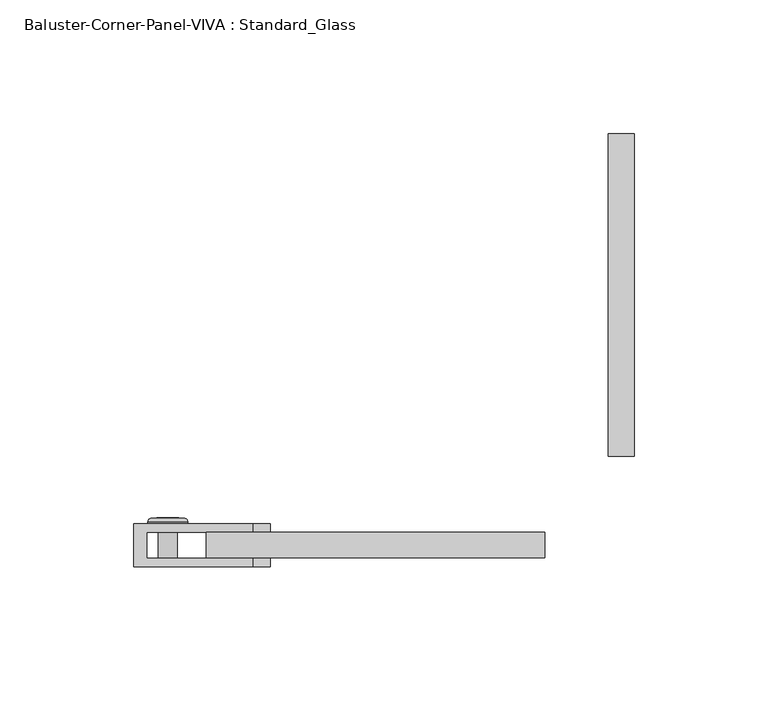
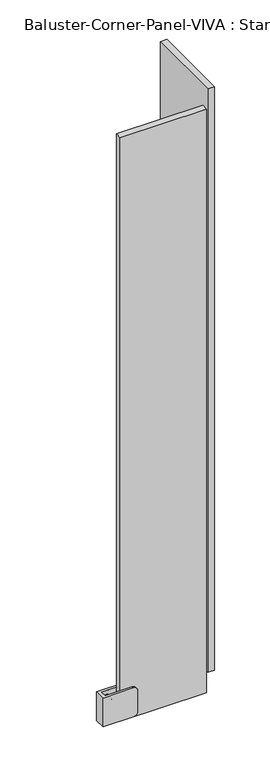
"""IFC4 building model written with IfcOpenShell, lengths in millimetres: railing geometry, Baluster-Corner-Panel-VIVA : Standard_Glass."""

from ifc_helpers import new_model, si_unit, point, frame, origin, place, context, project, spatial, polyline, circle_curve, ellipse_curve, trimmed, outline, extrude, source, transform, mapped, element, save
from ifc_brep_helpers import plane_surface, cylinder_surface, revolved_surface, advanced_brep


def baluster_corner_panel_viva_standard_glass_7a828251(model_context):
    return source(origin(), model_context, "Body", "SolidModel", [
        advanced_brep(
        [(-140.742391, -36.7665, 138.7358896), (-140.742391, -24.0665, 138.7358896), (-133.6514991, -24.0665, 138.7358896), (-133.6514991, -36.7665, 138.7358896), (-144.6047341, -24.0665, 138.7358896), (-129.789156, -24.0665, 138.7358896), (-138.8530204, -23.199388, 138.7358896), (-138.8530204, -36.7665, 138.7358896), (-135.5408697, -36.7665, 138.7358896), (-135.5408697, -23.199388, 138.7358896), (-144.6047341, -23.2316551, 138.7358896), (-143.3234621, -21.9503831, 138.7358896), (-131.070428, -21.9503831, 138.7358896), (-129.789156, -23.2316551, 138.7358896), (-141.4955406, -21.9503831, 138.7358896), (-132.8983495, -21.9503831, 138.7358896), (-141.4955406, -23.199388, 138.7358896), (-132.8983495, -23.199388, 138.7358896)],
        [
            (0, 1),
            (1, 2, circle_curve(frame((-137.1969451, -24.0665, 138.7358896), z_axis=(0.0, -1.0, 0.0), x_axis=(1.0, 0.0, 0.0)), 3.5454459)),
            (2, 3),
            (3, 0, circle_curve(frame((-137.1969451, -36.7665, 138.7358896), z_axis=(0.0, 1.0, 0.0), x_axis=(1.0, 0.0, 0.0)), 3.5454459)),
            (2, 1, circle_curve(frame((-137.1969451, -24.0665, 138.7358896), z_axis=(0.0, -1.0, 0.0), x_axis=(1.0, 0.0, 0.0)), 3.5454459)),
            (0, 3, circle_curve(frame((-137.1969451, -36.7665, 138.7358896), z_axis=(0.0, 1.0, 0.0), x_axis=(1.0, 0.0, 0.0)), 3.5454459)),
            (1, 4),
            (4, 5, circle_curve(frame((-137.1969451, -24.0665, 138.7358896), z_axis=(0.0, -1.0, 0.0), x_axis=(1.0, 0.0, 0.0)), 7.4077891)),
            (5, 2),
            (5, 4, circle_curve(frame((-137.1969451, -24.0665, 138.7358896), z_axis=(0.0, -1.0, 0.0), x_axis=(1.0, 0.0, 0.0)), 7.4077891)),
            (6, 7),
            (7, 8, circle_curve(frame((-137.1969451, -36.7665, 138.7358896), z_axis=(0.0, -1.0, 0.0), x_axis=(1.0, 0.0, 0.0)), 1.6560754)),
            (8, 9),
            (9, 6, circle_curve(frame((-137.1969451, -23.199388, 138.7358896), z_axis=(0.0, 1.0, 0.0), x_axis=(1.0, 0.0, 0.0)), 1.6560754)),
            (8, 7, circle_curve(frame((-137.1969451, -36.7665, 138.7358896), z_axis=(0.0, -1.0, 0.0), x_axis=(1.0, 0.0, 0.0)), 1.6560754)),
            (6, 9, circle_curve(frame((-137.1969451, -23.199388, 138.7358896), z_axis=(0.0, 1.0, 0.0), x_axis=(1.0, 0.0, 0.0)), 1.6560754)),
            (10, 11, circle_curve(frame((-143.3234621, -23.2316551, 138.7358896), z_axis=(0.0, 0.0, -1.0), x_axis=(-1.0, 0.0, 0.0)), 1.281272)),
            (11, 12, circle_curve(frame((-137.1969451, -21.9503831, 138.7358896), z_axis=(0.0, -1.0, 0.0), x_axis=(1.0, 0.0, 0.0)), 6.1265171)),
            (12, 13, circle_curve(frame((-131.070428, -23.2316551, 138.7358896), z_axis=(0.0, 0.0, -1.0), x_axis=(1.0, 0.0, 0.0)), 1.281272)),
            (13, 10, circle_curve(frame((-137.1969451, -23.2316551, 138.7358896), z_axis=(0.0, 1.0, 0.0), x_axis=(1.0, 0.0, 0.0)), 7.4077891)),
            (12, 11, circle_curve(frame((-137.1969451, -21.9503831, 138.7358896), z_axis=(0.0, -1.0, 0.0), x_axis=(1.0, 0.0, 0.0)), 6.1265171)),
            (10, 13, circle_curve(frame((-137.1969451, -23.2316551, 138.7358896), z_axis=(0.0, 1.0, 0.0), x_axis=(1.0, 0.0, 0.0)), 7.4077891)),
            (11, 14),
            (14, 15, circle_curve(frame((-137.1969451, -21.9503831, 138.7358896), z_axis=(0.0, -1.0, 0.0), x_axis=(1.0, 0.0, 0.0)), 4.2985955)),
            (15, 12),
            (15, 14, circle_curve(frame((-137.1969451, -21.9503831, 138.7358896), z_axis=(0.0, -1.0, 0.0), x_axis=(1.0, 0.0, 0.0)), 4.2985955)),
            (4, 10),
            (13, 5),
            (7, 0),
            (3, 8),
            (14, 16),
            (16, 17, circle_curve(frame((-137.1969451, -23.199388, 138.7358896), z_axis=(0.0, -1.0, 0.0), x_axis=(1.0, 0.0, 0.0)), 4.2985955)),
            (17, 15),
            (17, 16, circle_curve(frame((-137.1969451, -23.199388, 138.7358896), z_axis=(0.0, -1.0, 0.0), x_axis=(1.0, 0.0, 0.0)), 4.2985955)),
            (16, 6),
            (9, 17),
        ],
        [
            cylinder_surface(frame((-137.1969451, -27.5632331, 138.7358896), z_axis=(0.0, -1.0, 0.0), x_axis=(1.0, 0.0, 0.0)), 3.5454459),
            plane_surface(frame((-137.1969451, -24.0665, 138.7358896), z_axis=(0.0, -1.0, 0.0), x_axis=(1.0, 0.0, 0.0))),
            revolved_surface(polyline([(-135.5408697, -36.7665, 138.7358896), (-135.5408697, -23.199388, 138.7358896)]), (-137.1969451, -27.5632331, 138.7358896), (0.0, -1.0, 0.0)),
            revolved_surface(trimmed(ellipse_curve(frame((-131.070428, -23.2316551, 138.7358896), z_axis=(0.0, 0.0, -1.0), x_axis=(1.0, 0.0, 0.0)), 1.281272, 1.281272), [point((-131.070428, -21.9503831, 138.7358896))], [point((-129.789156, -23.2316551, 138.7358896))], True, "CARTESIAN"), (-137.1969451, -27.5632331, 138.7358896), (0.0, -1.0, 0.0)),
            plane_surface(frame((-137.1969451, -21.9503831, 138.7358896), z_axis=(0.0, 1.0, 0.0), x_axis=(1.0, 0.0, 0.0))),
            cylinder_surface(frame((-137.1969451, -27.5632331, 138.7358896), z_axis=(0.0, -1.0, 0.0), x_axis=(1.0, 0.0, 0.0)), 7.4077891),
            plane_surface(frame((-137.1969451, -36.7665, 138.7358896), z_axis=(0.0, -1.0, 0.0), x_axis=(1.0, 0.0, 0.0))),
            revolved_surface(polyline([(-132.8983496, -23.199388, 138.7358896), (-132.8983496, -21.9503831, 138.7358896)]), (-137.1969451, -27.5632331, 138.7358896), (0.0, -1.0, 0.0)),
            plane_surface(frame((-137.1969451, -23.199388, 138.7358896), z_axis=(0.0, 1.0, 0.0), x_axis=(1.0, 0.0, 0.0))),
        ],
        [
            (0, [[1, 2, 3, 4]]),
            (0, [[-3, 5, -1, 6]]),
            (1, [[7, 8, 9, -2]]),
            (1, [[-9, 10, -7, -5]]),
            (2, [[11, 12, 13, 14]]),
            (2, [[-13, 15, -11, 16]]),
            (3, [[17, 18, 19, 20]]),
            (3, [[-19, 21, -17, 22]]),
            (4, [[23, 24, 25, -18]]),
            (4, [[-25, 26, -23, -21]]),
            (5, [[27, -20, 28, -8]]),
            (5, [[-28, -22, -27, -10]]),
            (6, [[29, -4, 30, -12]]),
            (6, [[-30, -6, -29, -15]]),
            (7, [[31, 32, 33, -24]]),
            (7, [[-33, 34, -31, -26]]),
            (8, [[35, -14, 36, -32]]),
            (8, [[-36, -16, -35, -34]]),
        ],
    ),
        advanced_brep(
        [(-140.742391, -36.7665, 114.1296396), (-140.742391, -24.0665, 114.1296396), (-133.6514991, -24.0665, 114.1296396), (-133.6514991, -36.7665, 114.1296396), (-144.6047341, -24.0665, 114.1296396), (-129.789156, -24.0665, 114.1296396), (-138.8530204, -23.199388, 114.1296396), (-138.8530204, -36.7665, 114.1296396), (-135.5408697, -36.7665, 114.1296396), (-135.5408697, -23.199388, 114.1296396), (-144.6047341, -23.2316551, 114.1296396), (-143.3234621, -21.9503831, 114.1296396), (-131.070428, -21.9503831, 114.1296396), (-129.789156, -23.2316551, 114.1296396), (-141.4955406, -21.9503831, 114.1296396), (-132.8983495, -21.9503831, 114.1296396), (-141.4955406, -23.199388, 114.1296396), (-132.8983495, -23.199388, 114.1296396)],
        [
            (0, 1),
            (1, 2, circle_curve(frame((-137.1969451, -24.0665, 114.1296396), z_axis=(0.0, -1.0, 0.0), x_axis=(1.0, 0.0, 0.0)), 3.5454459)),
            (2, 3),
            (3, 0, circle_curve(frame((-137.1969451, -36.7665, 114.1296396), z_axis=(0.0, 1.0, 0.0), x_axis=(1.0, 0.0, 0.0)), 3.5454459)),
            (2, 1, circle_curve(frame((-137.1969451, -24.0665, 114.1296396), z_axis=(0.0, -1.0, 0.0), x_axis=(1.0, 0.0, 0.0)), 3.5454459)),
            (0, 3, circle_curve(frame((-137.1969451, -36.7665, 114.1296396), z_axis=(0.0, 1.0, 0.0), x_axis=(1.0, 0.0, 0.0)), 3.5454459)),
            (1, 4),
            (4, 5, circle_curve(frame((-137.1969451, -24.0665, 114.1296396), z_axis=(0.0, -1.0, 0.0), x_axis=(1.0, 0.0, 0.0)), 7.4077891)),
            (5, 2),
            (5, 4, circle_curve(frame((-137.1969451, -24.0665, 114.1296396), z_axis=(0.0, -1.0, 0.0), x_axis=(1.0, 0.0, 0.0)), 7.4077891)),
            (6, 7),
            (7, 8, circle_curve(frame((-137.1969451, -36.7665, 114.1296396), z_axis=(0.0, -1.0, 0.0), x_axis=(1.0, 0.0, 0.0)), 1.6560754)),
            (8, 9),
            (9, 6, circle_curve(frame((-137.1969451, -23.199388, 114.1296396), z_axis=(0.0, 1.0, 0.0), x_axis=(1.0, 0.0, 0.0)), 1.6560754)),
            (8, 7, circle_curve(frame((-137.1969451, -36.7665, 114.1296396), z_axis=(0.0, -1.0, 0.0), x_axis=(1.0, 0.0, 0.0)), 1.6560754)),
            (6, 9, circle_curve(frame((-137.1969451, -23.199388, 114.1296396), z_axis=(0.0, 1.0, 0.0), x_axis=(1.0, 0.0, 0.0)), 1.6560754)),
            (10, 11, circle_curve(frame((-143.3234621, -23.2316551, 114.1296396), z_axis=(0.0, 0.0, -1.0), x_axis=(-1.0, 0.0, 0.0)), 1.281272)),
            (11, 12, circle_curve(frame((-137.1969451, -21.9503831, 114.1296396), z_axis=(0.0, -1.0, 0.0), x_axis=(1.0, 0.0, 0.0)), 6.1265171)),
            (12, 13, circle_curve(frame((-131.070428, -23.2316551, 114.1296396), z_axis=(0.0, 0.0, -1.0), x_axis=(1.0, 0.0, 0.0)), 1.281272)),
            (13, 10, circle_curve(frame((-137.1969451, -23.2316551, 114.1296396), z_axis=(0.0, 1.0, 0.0), x_axis=(1.0, 0.0, 0.0)), 7.4077891)),
            (12, 11, circle_curve(frame((-137.1969451, -21.9503831, 114.1296396), z_axis=(0.0, -1.0, 0.0), x_axis=(1.0, 0.0, 0.0)), 6.1265171)),
            (10, 13, circle_curve(frame((-137.1969451, -23.2316551, 114.1296396), z_axis=(0.0, 1.0, 0.0), x_axis=(1.0, 0.0, 0.0)), 7.4077891)),
            (11, 14),
            (14, 15, circle_curve(frame((-137.1969451, -21.9503831, 114.1296396), z_axis=(0.0, -1.0, 0.0), x_axis=(1.0, 0.0, 0.0)), 4.2985955)),
            (15, 12),
            (15, 14, circle_curve(frame((-137.1969451, -21.9503831, 114.1296396), z_axis=(0.0, -1.0, 0.0), x_axis=(1.0, 0.0, 0.0)), 4.2985955)),
            (7, 0),
            (3, 8),
            (4, 10),
            (13, 5),
            (14, 16),
            (16, 17, circle_curve(frame((-137.1969451, -23.199388, 114.1296396), z_axis=(0.0, -1.0, 0.0), x_axis=(1.0, 0.0, 0.0)), 4.2985955)),
            (17, 15),
            (17, 16, circle_curve(frame((-137.1969451, -23.199388, 114.1296396), z_axis=(0.0, -1.0, 0.0), x_axis=(1.0, 0.0, 0.0)), 4.2985955)),
            (16, 6),
            (9, 17),
        ],
        [
            cylinder_surface(frame((-137.1969451, -27.5632331, 114.1296396), z_axis=(0.0, -1.0, 0.0), x_axis=(1.0, 0.0, 0.0)), 3.5454459),
            plane_surface(frame((-137.1969451, -24.0665, 114.1296396), z_axis=(0.0, -1.0, 0.0), x_axis=(1.0, 0.0, 0.0))),
            revolved_surface(polyline([(-135.5408697, -36.7665, 114.1296396), (-135.5408697, -23.199388, 114.1296396)]), (-137.1969451, -27.5632331, 114.1296396), (0.0, -1.0, 0.0)),
            revolved_surface(trimmed(ellipse_curve(frame((-131.070428, -23.2316551, 114.1296396), z_axis=(0.0, 0.0, -1.0), x_axis=(1.0, 0.0, 0.0)), 1.281272, 1.281272), [point((-131.070428, -21.9503831, 114.1296396))], [point((-129.789156, -23.2316551, 114.1296396))], True, "CARTESIAN"), (-137.1969451, -27.5632331, 114.1296396), (0.0, -1.0, 0.0)),
            plane_surface(frame((-137.1969451, -21.9503831, 114.1296396), z_axis=(0.0, 1.0, 0.0), x_axis=(1.0, 0.0, 0.0))),
            plane_surface(frame((-137.1969451, -36.7665, 114.1296396), z_axis=(0.0, -1.0, 0.0), x_axis=(1.0, 0.0, 0.0))),
            cylinder_surface(frame((-137.1969451, -27.5632331, 114.1296396), z_axis=(0.0, -1.0, 0.0), x_axis=(1.0, 0.0, 0.0)), 7.4077891),
            revolved_surface(polyline([(-132.8983496, -23.199388, 114.1296396), (-132.8983496, -21.9503831, 114.1296396)]), (-137.1969451, -27.5632331, 114.1296396), (0.0, -1.0, 0.0)),
            plane_surface(frame((-137.1969451, -23.199388, 114.1296396), z_axis=(0.0, 1.0, 0.0), x_axis=(1.0, 0.0, 0.0))),
        ],
        [
            (0, [[1, 2, 3, 4]]),
            (0, [[-3, 5, -1, 6]]),
            (1, [[7, 8, 9, -2]]),
            (1, [[-9, 10, -7, -5]]),
            (2, [[11, 12, 13, 14]]),
            (2, [[-13, 15, -11, 16]]),
            (3, [[17, 18, 19, 20]]),
            (3, [[-19, 21, -17, 22]]),
            (4, [[23, 24, 25, -18]]),
            (4, [[-25, 26, -23, -21]]),
            (5, [[27, -4, 28, -12]]),
            (5, [[-28, -6, -27, -15]]),
            (6, [[29, -20, 30, -8]]),
            (6, [[-30, -22, -29, -10]]),
            (7, [[31, 32, 33, -24]]),
            (7, [[-33, 34, -31, -26]]),
            (8, [[35, -14, 36, -32]]),
            (8, [[-36, -16, -35, -34]]),
        ],
    ),
        extrude(outline(polyline([(114.1296396, -141.2908734), (110.5841937, -139.2439092), (110.5841937, -135.1499809), (114.1296396, -133.1030168), (117.6750855, -135.1499809), (117.6750855, -139.2439092), (114.1296396, -141.2908734)])), frame((0.0, -23.199388, 0.0), z_axis=(0.0, 1.0, 0.0), x_axis=(0.0, 0.0, 1.0)), (0.0, 0.0, 1.0), 1.4969696),
        advanced_brep(
        [(-149.8302898, -24.0665, 148.6577646), (-105.3802898, -24.0665, 148.6577646), (-99.0302898, -24.0665, 142.3077646), (-99.0302898, -24.0665, 110.5577646), (-105.3802898, -24.0665, 104.2077646), (-149.8302898, -24.0665, 104.2077646), (-149.8302898, -39.9415, 148.6577646), (-149.8302898, -39.9415, 104.2077646), (-105.3802898, -39.9415, 104.2077646), (-99.0302898, -39.9415, 110.5577646), (-99.0302898, -39.9415, 142.3077646), (-105.3802898, -39.9415, 148.6577646), (-105.3802898, -27.2415, 104.2077646), (-145.1122094, -27.2415, 104.2077646), (-145.1122094, -36.7665, 104.2077646), (-105.3802898, -36.7665, 104.2077646), (-145.1122094, -27.2415, 148.6577646), (-145.1122094, -36.7665, 148.6577646), (-99.0302898, -27.2415, 110.5577646), (-99.0302898, -27.2415, 142.3077646), (-105.3802898, -27.2415, 148.6577646), (-105.3802898, -36.7665, 148.6577646), (-99.0302898, -36.7665, 142.3077646), (-99.0302898, -36.7665, 110.5577646)],
        [
            (0, 1),
            (1, 2, circle_curve(frame((-105.3802898, -24.0665, 142.3077646), z_axis=(0.0, 1.0, 0.0), x_axis=(1.0, 0.0, 0.0)), 6.35)),
            (2, 3),
            (3, 4, circle_curve(frame((-105.3802898, -24.0665, 110.5577646), z_axis=(0.0, 1.0, 0.0), x_axis=(1.0, 0.0, 0.0)), 6.35)),
            (4, 5),
            (5, 0),
            (6, 7),
            (7, 8),
            (8, 9, circle_curve(frame((-105.3802898, -39.9415, 110.5577646), z_axis=(0.0, -1.0, 0.0), x_axis=(1.0, 0.0, 0.0)), 6.35)),
            (9, 10),
            (10, 11, circle_curve(frame((-105.3802898, -39.9415, 142.3077646), z_axis=(0.0, -1.0, 0.0), x_axis=(1.0, 0.0, 0.0)), 6.35)),
            (11, 6),
            (5, 7),
            (6, 0),
            (4, 12),
            (12, 13),
            (13, 14),
            (14, 15),
            (15, 8),
            (13, 16),
            (16, 17),
            (17, 14),
            (12, 18, circle_curve(frame((-105.3802898, -27.2415, 110.5577646), z_axis=(0.0, -1.0, 0.0), x_axis=(1.0, 0.0, 0.0)), 6.35)),
            (18, 19),
            (19, 20, circle_curve(frame((-105.3802898, -27.2415, 142.3077646), z_axis=(0.0, -1.0, 0.0), x_axis=(1.0, 0.0, 0.0)), 6.35)),
            (20, 16),
            (17, 21),
            (21, 22, circle_curve(frame((-105.3802898, -36.7665, 142.3077646), z_axis=(0.0, 1.0, 0.0), x_axis=(1.0, 0.0, 0.0)), 6.35)),
            (22, 23),
            (23, 15, circle_curve(frame((-105.3802898, -36.7665, 110.5577646), z_axis=(0.0, 1.0, 0.0), x_axis=(1.0, 0.0, 0.0)), 6.35)),
            (23, 9),
            (3, 18),
            (22, 10),
            (2, 19),
            (21, 11),
            (1, 20),
        ],
        [
            plane_surface(frame((-149.8302898, -24.0665, 104.2077646), z_axis=(0.0, 1.0, 0.0), x_axis=(0.0, 0.0, -1.0))),
            plane_surface(frame((-149.8302898, -39.9415, 104.2077646), z_axis=(0.0, -1.0, 0.0), x_axis=(0.0, 0.0, 1.0))),
            plane_surface(frame((-149.8302898, -24.0665, 148.6577646), z_axis=(-1.0, 0.0, 0.0), x_axis=(0.0, -1.0, 0.0))),
            plane_surface(frame((-149.8302898, -24.0665, 104.2077646), z_axis=(0.0, 0.0, -1.0), x_axis=(0.0, -1.0, 0.0))),
            plane_surface(frame((-145.1122094, -36.7665, 161.3577646), z_axis=(1.0, 0.0, 0.0), x_axis=(0.0, 0.0, -1.0))),
            plane_surface(frame((-145.1122094, -27.2415, 161.3577646), z_axis=(0.0, -1.0, 0.0), x_axis=(0.0, 0.0, -1.0))),
            plane_surface(frame((-86.3302898, -36.7665, 161.3577646), z_axis=(0.0, 1.0, 0.0), x_axis=(0.0, 0.0, -1.0))),
            cylinder_surface(frame((-105.3802898, -39.9415, 110.5577646), z_axis=(0.0, 1.0, 0.0), x_axis=(1.0, 0.0, 0.0)), 6.35),
            plane_surface(frame((-99.0302898, -24.0665, 110.5577646), z_axis=(1.0, 0.0, 0.0), x_axis=(0.0, -1.0, 0.0))),
            cylinder_surface(frame((-105.3802898, -39.9415, 142.3077646), z_axis=(0.0, 1.0, 0.0), x_axis=(1.0, 0.0, 0.0)), 6.35),
            plane_surface(frame((-105.3802898, -24.0665, 148.6577646), z_axis=(0.0, 0.0, 1.0), x_axis=(0.0, -1.0, 0.0))),
        ],
        [
            (0, [[1, 2, 3, 4, 5, 6]]),
            (1, [[7, 8, 9, 10, 11, 12]]),
            (2, [[13, -7, 14, -6]]),
            (3, [[15, 16, 17, 18, 19, -8, -13, -5]]),
            (4, [[-17, 20, 21, 22]]),
            (5, [[-16, 23, 24, 25, 26, -20]]),
            (6, [[27, 28, 29, 30, -18, -22]]),
            (7, [[-19, -30, 31, -9]]),
            (7, [[32, -23, -15, -4]]),
            (8, [[-31, -29, 33, -10]]),
            (8, [[34, -24, -32, -3]]),
            (9, [[-33, -28, 35, -11]]),
            (9, [[36, -25, -34, -2]]),
            (10, [[-14, -12, -35, -27, -21, -26, -36, -1]]),
        ],
    ),
        extrude(outline(polyline([(36.7665, 1.0851207), (27.2415, 1.0851207), (27.2415, 121.3168543), (36.7665, 121.3168543), (36.7665, 1.0851207)])), frame((0.0, 0.0, 101.6), z_axis=(0.0, 0.0, 1.0), x_axis=(1.0, 0.0, 0.0)), (0.0, 0.0, 1.0), 901.7),
        extrude(outline(polyline([(-122.8872094, -36.7665), (-122.8872094, -27.2415), (3.429, -27.2415), (3.429, -36.7665), (-122.8872094, -36.7665)])), frame((0.0, 0.0, 101.6), z_axis=(0.0, 0.0, 1.0), x_axis=(1.0, 0.0, 0.0)), (0.0, 0.0, 1.0), 901.7),
    ])


if __name__ == "__main__":
    model = new_model("IFC4")
    model_context = context("Model", 3, world=origin())
    ifc_project = project(units=[si_unit("LENGTHUNIT", "METRE", prefix="MILLI")], contexts=[model_context])
    site = spatial("IfcSite", under=ifc_project)
    building = spatial("IfcBuilding", under=site)
    placement = place(None, origin())
    baluster_corner_panel_viva_standard_glass_shape = baluster_corner_panel_viva_standard_glass_7a828251(model_context)
    element("IfcRailing", 1, ObjectType="Baluster-Corner-Panel-VIVA : Standard_Glass", at=placement, inside=building, context=model_context, shape_type="MappedRepresentation", body=[
        mapped(baluster_corner_panel_viva_standard_glass_shape, transform((0.0, 0.0, 0.0), x_axis=(1.0, 0.0, 0.0), y_axis=(0.0, 1.0, 0.0), z_axis=(0.0, 0.0, 1.0))),
    ])
    save(model, "model.ifc")
